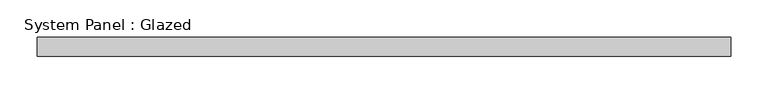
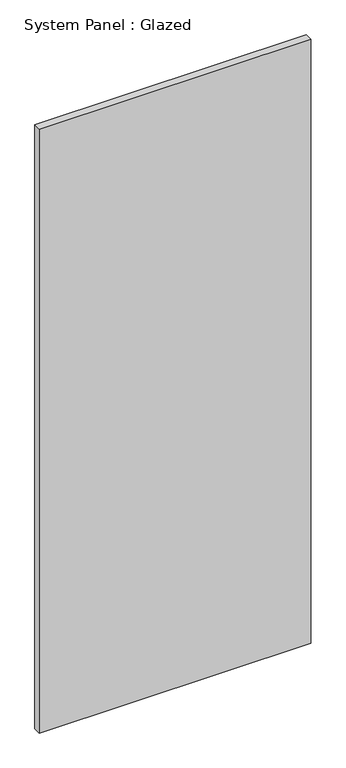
"""IFC4 building model written with IfcOpenShell, lengths in millimetres: plate geometry, System Panel : Glazed."""

from ifc_helpers import new_model, si_unit, origin, origin_with_axes, place, context, project, spatial, polyline, outline, extrude, source, transform, mapped, element, save


def system_panel_glazed_2f373757(model_context):
    return source(origin(), model_context, "Body", "SweptSolid", [
        extrude(outline(polyline([(462.5, 24.5), (-462.5, 24.5), (-462.5, 49.5), (462.5, 49.5), (462.5, 24.5)])), origin_with_axes(), (0.0, 0.0, 1.0), 2175.0),
    ])


if __name__ == "__main__":
    model = new_model("IFC4")
    model_context = context("Model", 3, world=origin())
    ifc_project = project(units=[si_unit("LENGTHUNIT", "METRE", prefix="MILLI")], contexts=[model_context])
    site = spatial("IfcSite", under=ifc_project)
    building = spatial("IfcBuilding", under=site)
    placement = place(None, origin())
    system_panel_glazed_shape = system_panel_glazed_2f373757(model_context)
    element("IfcPlate", 1, ObjectType="System Panel : Glazed", at=placement, inside=building, context=model_context, shape_type="MappedRepresentation", body=[
        mapped(system_panel_glazed_shape, transform((0.0, 0.0, 0.0), x_axis=(1.0, 0.0, 0.0), y_axis=(0.0, 1.0, 0.0), z_axis=(0.0, 0.0, 1.0))),
    ])
    save(model, "model.ifc")
